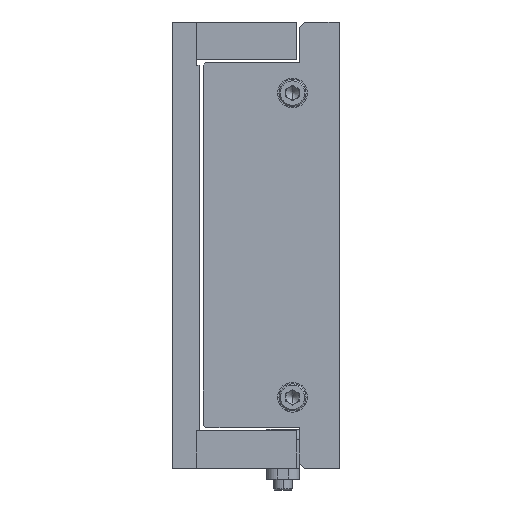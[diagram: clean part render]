
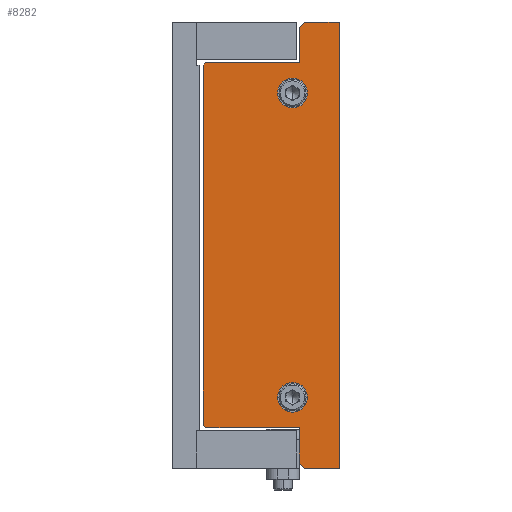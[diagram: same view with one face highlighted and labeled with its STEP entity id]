
A CAD part, left-side view. The second image highlights one B-rep face of the part: STEP entity #8282.
In plain terms, the highlighted planar face has unit normal (-1, 0, 0).
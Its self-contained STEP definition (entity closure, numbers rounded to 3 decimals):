
#515 = CARTESIAN_POINT ( 'NONE',  ( -165., 49.5, -67.5 ) ) ;
#971 = CIRCLE ( 'NONE', #52174, 5.5 ) ;
#1291 = DIRECTION ( 'NONE',  ( 0., 0., 1. ) ) ;
#1626 = CARTESIAN_POINT ( 'NONE',  ( -165., 13.05, 82.5 ) ) ;
#1867 = CARTESIAN_POINT ( 'NONE',  ( -165., 17.5, -56.25 ) ) ;
#1968 = ORIENTED_EDGE ( 'NONE', *, *, #34922, .T. ) ;
#2329 = LINE ( 'NONE', #26789, #9531 ) ;
#2402 = DIRECTION ( 'NONE',  ( 0., 0., -1. ) ) ;
#3344 = VERTEX_POINT ( 'NONE', #28880 ) ;
#3509 = VERTEX_POINT ( 'NONE', #22169 ) ;
#3795 = VERTEX_POINT ( 'NONE', #25819 ) ;
#3875 = ORIENTED_EDGE ( 'NONE', *, *, #4572, .T. ) ;
#3990 = CARTESIAN_POINT ( 'NONE',  ( -165., 0., 0. ) ) ;
#4143 = AXIS2_PLACEMENT_3D ( 'NONE', #3990, #15925, #28762 ) ;
#4572 = EDGE_CURVE ( 'NONE', #5799, #43345, #47939, .T. ) ;
#5030 = FACE_OUTER_BOUND ( 'NONE', #40153, .T. ) ;
#5457 = EDGE_CURVE ( 'NONE', #43672, #3344, #54444, .T. ) ;
#5648 = CIRCLE ( 'NONE', #52345, 5.5 ) ;
#5799 = VERTEX_POINT ( 'NONE', #6960 ) ;
#6960 = CARTESIAN_POINT ( 'NONE',  ( -165., 13.05, -82.5 ) ) ;
#6964 = CARTESIAN_POINT ( 'NONE',  ( -165., 15., -80.55 ) ) ;
#7027 = CIRCLE ( 'NONE', #17388, 5.5 ) ;
#7709 = LINE ( 'NONE', #22586, #35336 ) ;
#7964 = ORIENTED_EDGE ( 'NONE', *, *, #50110, .T. ) ;
#8119 = EDGE_CURVE ( 'NONE', #35908, #26024, #12312, .T. ) ;
#8282 = ADVANCED_FACE ( 'NONE', ( #52438, #41226, #5030 ), #41120, .F. ) ;
#9531 = VECTOR ( 'NONE', #52242, 1000. ) ;
#9592 = VECTOR ( 'NONE', #26398, 1000. ) ;
#10012 = ORIENTED_EDGE ( 'NONE', *, *, #54511, .T. ) ;
#10987 = EDGE_CURVE ( 'NONE', #53475, #14832, #46039, .T. ) ;
#12312 = LINE ( 'NONE', #1626, #31980 ) ;
#12821 = DIRECTION ( 'NONE',  ( 0., 1., 0. ) ) ;
#12950 = EDGE_CURVE ( 'NONE', #17881, #31043, #2329, .T. ) ;
#13635 = DIRECTION ( 'NONE',  ( 0., -1., 0. ) ) ;
#13980 = VERTEX_POINT ( 'NONE', #18605 ) ;
#14832 = VERTEX_POINT ( 'NONE', #48034 ) ;
#15925 = DIRECTION ( 'NONE',  ( 1., 0., 0. ) ) ;
#16487 = CARTESIAN_POINT ( 'NONE',  ( -165., 17.5, 56.25 ) ) ;
#16795 = VECTOR ( 'NONE', #12821, 1000. ) ;
#17388 = AXIS2_PLACEMENT_3D ( 'NONE', #43008, #43745, #1291 ) ;
#17548 = VECTOR ( 'NONE', #48910, 1000. ) ;
#17881 = VERTEX_POINT ( 'NONE', #29474 ) ;
#17999 = DIRECTION ( 'NONE',  ( 0., 0., -1. ) ) ;
#18592 = VECTOR ( 'NONE', #42583, 1000. ) ;
#18605 = CARTESIAN_POINT ( 'NONE',  ( -165., 50.5, 66.5 ) ) ;
#18969 = DIRECTION ( 'NONE',  ( 0., 0.707, -0.707 ) ) ;
#19255 = VECTOR ( 'NONE', #2402, 1000. ) ;
#19692 = ORIENTED_EDGE ( 'NONE', *, *, #10987, .F. ) ;
#19827 = ORIENTED_EDGE ( 'NONE', *, *, #28856, .F. ) ;
#20184 = ORIENTED_EDGE ( 'NONE', *, *, #12950, .T. ) ;
#20823 = LINE ( 'NONE', #36645, #41927 ) ;
#21185 = ORIENTED_EDGE ( 'NONE', *, *, #50365, .F. ) ;
#22073 = CARTESIAN_POINT ( 'NONE',  ( -165., 50.5, -66.5 ) ) ;
#22169 = CARTESIAN_POINT ( 'NONE',  ( -165., 17.5, -61.75 ) ) ;
#22342 = ORIENTED_EDGE ( 'NONE', *, *, #47211, .T. ) ;
#22350 = CARTESIAN_POINT ( 'NONE',  ( -165., 15., -67.5 ) ) ;
#22586 = CARTESIAN_POINT ( 'NONE',  ( -165., 15., -67.5 ) ) ;
#23454 = VECTOR ( 'NONE', #17999, 1000. ) ;
#24044 = CARTESIAN_POINT ( 'NONE',  ( -165., 17.5, 61.75 ) ) ;
#24726 = VERTEX_POINT ( 'NONE', #48193 ) ;
#25424 = EDGE_CURVE ( 'NONE', #26024, #43672, #28441, .T. ) ;
#25819 = CARTESIAN_POINT ( 'NONE',  ( -165., 17.5, -50.75 ) ) ;
#26024 = VERTEX_POINT ( 'NONE', #36603 ) ;
#26398 = DIRECTION ( 'NONE',  ( 0., 0., -1. ) ) ;
#26617 = CARTESIAN_POINT ( 'NONE',  ( -165., 49.5, 67.5 ) ) ;
#26789 = CARTESIAN_POINT ( 'NONE',  ( -165., 49.5, -67.5 ) ) ;
#27000 = DIRECTION ( 'NONE',  ( -1., 0., 0. ) ) ;
#27338 = CARTESIAN_POINT ( 'NONE',  ( -165., 13.05, -82.5 ) ) ;
#27452 = CARTESIAN_POINT ( 'NONE',  ( -165., 15., 80.55 ) ) ;
#27862 = ORIENTED_EDGE ( 'NONE', *, *, #29270, .T. ) ;
#28133 = EDGE_LOOP ( 'NONE', ( #21185, #35785 ) ) ;
#28216 = EDGE_CURVE ( 'NONE', #13980, #17881, #33980, .T. ) ;
#28419 = DIRECTION ( 'NONE',  ( -1., 0., 0. ) ) ;
#28441 = LINE ( 'NONE', #27452, #44249 ) ;
#28634 = LINE ( 'NONE', #50936, #16795 ) ;
#28762 = DIRECTION ( 'NONE',  ( 0., 0., -1. ) ) ;
#28856 = EDGE_CURVE ( 'NONE', #14832, #53475, #7027, .T. ) ;
#28880 = CARTESIAN_POINT ( 'NONE',  ( -165., 15., 67.5 ) ) ;
#29270 = EDGE_CURVE ( 'NONE', #3344, #44837, #28634, .T. ) ;
#29474 = CARTESIAN_POINT ( 'NONE',  ( -165., 50.5, -66.5 ) ) ;
#30449 = ORIENTED_EDGE ( 'NONE', *, *, #53268, .T. ) ;
#30551 = CARTESIAN_POINT ( 'NONE',  ( -165., 17.5, -56.25 ) ) ;
#30846 = DIRECTION ( 'NONE',  ( 0., -1., 0. ) ) ;
#31043 = VERTEX_POINT ( 'NONE', #515 ) ;
#31980 = VECTOR ( 'NONE', #44262, 1000. ) ;
#32560 = DIRECTION ( 'NONE',  ( 0., 0.707, -0.707 ) ) ;
#33489 = AXIS2_PLACEMENT_3D ( 'NONE', #16487, #28419, #37282 ) ;
#33980 = LINE ( 'NONE', #22073, #23454 ) ;
#34922 = EDGE_CURVE ( 'NONE', #24726, #5799, #47239, .T. ) ;
#35336 = VECTOR ( 'NONE', #30846, 1000. ) ;
#35785 = ORIENTED_EDGE ( 'NONE', *, *, #54284, .F. ) ;
#35908 = VERTEX_POINT ( 'NONE', #44595 ) ;
#36603 = CARTESIAN_POINT ( 'NONE',  ( -165., 13.05, 82.5 ) ) ;
#36645 = CARTESIAN_POINT ( 'NONE',  ( -165., 50.5, 66.5 ) ) ;
#36706 = VECTOR ( 'NONE', #13635, 1000. ) ;
#37282 = DIRECTION ( 'NONE',  ( 0., 0., 1. ) ) ;
#38540 = DIRECTION ( 'NONE',  ( 0., 0., 1. ) ) ;
#40070 = ORIENTED_EDGE ( 'NONE', *, *, #28216, .T. ) ;
#40153 = EDGE_LOOP ( 'NONE', ( #22342, #49777, #45787, #54391, #27862, #7964, #40070, #20184, #30449, #10012, #1968, #3875 ) ) ;
#40347 = LINE ( 'NONE', #50547, #18592 ) ;
#41120 = PLANE ( 'NONE',  #4143 ) ;
#41226 = FACE_BOUND ( 'NONE', #54161, .T. ) ;
#41927 = VECTOR ( 'NONE', #32560, 1000. ) ;
#42583 = DIRECTION ( 'NONE',  ( 0., 0., 1. ) ) ;
#42863 = CARTESIAN_POINT ( 'NONE',  ( -165., 0.25, -82.5 ) ) ;
#42914 = DIRECTION ( 'NONE',  ( -1., 0., 0. ) ) ;
#43000 = LINE ( 'NONE', #6964, #19255 ) ;
#43008 = CARTESIAN_POINT ( 'NONE',  ( -165., 17.5, 56.25 ) ) ;
#43345 = VERTEX_POINT ( 'NONE', #53047 ) ;
#43672 = VERTEX_POINT ( 'NONE', #51888 ) ;
#43745 = DIRECTION ( 'NONE',  ( -1., 0., 0. ) ) ;
#44249 = VECTOR ( 'NONE', #18969, 1000. ) ;
#44262 = DIRECTION ( 'NONE',  ( 0., 1., 0. ) ) ;
#44595 = CARTESIAN_POINT ( 'NONE',  ( -165., 0.25, 82.5 ) ) ;
#44837 = VERTEX_POINT ( 'NONE', #26617 ) ;
#45787 = ORIENTED_EDGE ( 'NONE', *, *, #25424, .T. ) ;
#46039 = CIRCLE ( 'NONE', #33489, 5.5 ) ;
#47211 = EDGE_CURVE ( 'NONE', #43345, #35908, #40347, .T. ) ;
#47239 = LINE ( 'NONE', #27338, #17548 ) ;
#47939 = LINE ( 'NONE', #42863, #36706 ) ;
#48034 = CARTESIAN_POINT ( 'NONE',  ( -165., 17.5, 50.75 ) ) ;
#48193 = CARTESIAN_POINT ( 'NONE',  ( -165., 15., -80.55 ) ) ;
#48411 = DIRECTION ( 'NONE',  ( 0., 0., 1. ) ) ;
#48910 = DIRECTION ( 'NONE',  ( 0., -0.707, -0.707 ) ) ;
#49247 = VERTEX_POINT ( 'NONE', #22350 ) ;
#49777 = ORIENTED_EDGE ( 'NONE', *, *, #8119, .T. ) ;
#50110 = EDGE_CURVE ( 'NONE', #44837, #13980, #20823, .T. ) ;
#50365 = EDGE_CURVE ( 'NONE', #3795, #3509, #5648, .T. ) ;
#50547 = CARTESIAN_POINT ( 'NONE',  ( -165., 0.25, 82.5 ) ) ;
#50936 = CARTESIAN_POINT ( 'NONE',  ( -165., 49.5, 67.5 ) ) ;
#51875 = CARTESIAN_POINT ( 'NONE',  ( -165., 15., 67.5 ) ) ;
#51888 = CARTESIAN_POINT ( 'NONE',  ( -165., 15., 80.55 ) ) ;
#52174 = AXIS2_PLACEMENT_3D ( 'NONE', #30551, #42914, #38540 ) ;
#52242 = DIRECTION ( 'NONE',  ( 0., -0.707, -0.707 ) ) ;
#52345 = AXIS2_PLACEMENT_3D ( 'NONE', #1867, #27000, #48411 ) ;
#52438 = FACE_BOUND ( 'NONE', #28133, .T. ) ;
#53047 = CARTESIAN_POINT ( 'NONE',  ( -165., 0.25, -82.5 ) ) ;
#53268 = EDGE_CURVE ( 'NONE', #31043, #49247, #7709, .T. ) ;
#53475 = VERTEX_POINT ( 'NONE', #24044 ) ;
#54161 = EDGE_LOOP ( 'NONE', ( #19692, #19827 ) ) ;
#54284 = EDGE_CURVE ( 'NONE', #3509, #3795, #971, .T. ) ;
#54391 = ORIENTED_EDGE ( 'NONE', *, *, #5457, .T. ) ;
#54444 = LINE ( 'NONE', #51875, #9592 ) ;
#54511 = EDGE_CURVE ( 'NONE', #49247, #24726, #43000, .T. ) ;
